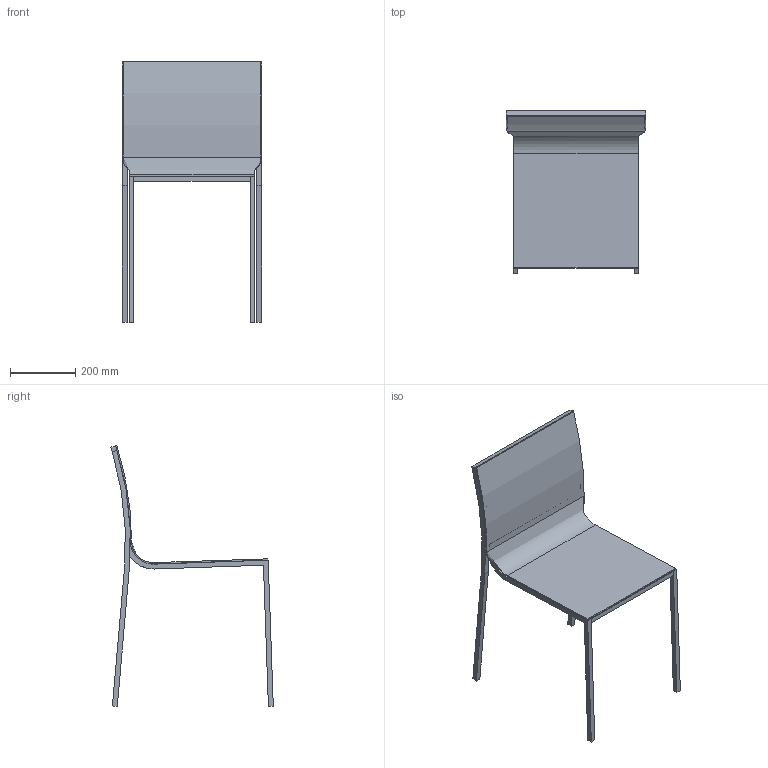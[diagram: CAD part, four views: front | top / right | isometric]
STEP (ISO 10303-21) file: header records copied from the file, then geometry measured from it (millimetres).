
FILE_DESCRIPTION(/* description */ (''),/* implementation_level */ '2;1');
FILE_NAME(/* name */ '4400 - Ultra',/* time_stamp */ '2010-11-04T17:28:17+01:00',/* author */ (''),/* organization */ (''),/* preprocessor_version */ 'ST-DEVELOPER v10',/* originating_system */ '',/* authorisation */ '');
FILE_SCHEMA (('CONFIG_CONTROL_DESIGN'));
Length unit declared in the file: centimetre
Products named in the file (1): 1
Bounding box: 425 x 497.06 x 797.03 mm (x, y, z)
Volume: 2223811 mm3; surface area: 884487.5 mm2
Topology: 8 solids, 8 shells, 74 faces, 166 edges, 108 vertices
Faces by surface type: plane 54, bspline 20
Entity records: 2212 total; most frequent: CARTESIAN_POINT 963, ORIENTED_EDGE 332, EDGE_CURVE 166, B_SPLINE_CURVE_WITH_KNOTS 147, VERTEX_POINT 108, ADVANCED_FACE 74, FACE_OUTER_BOUND 74, EDGE_LOOP 74
